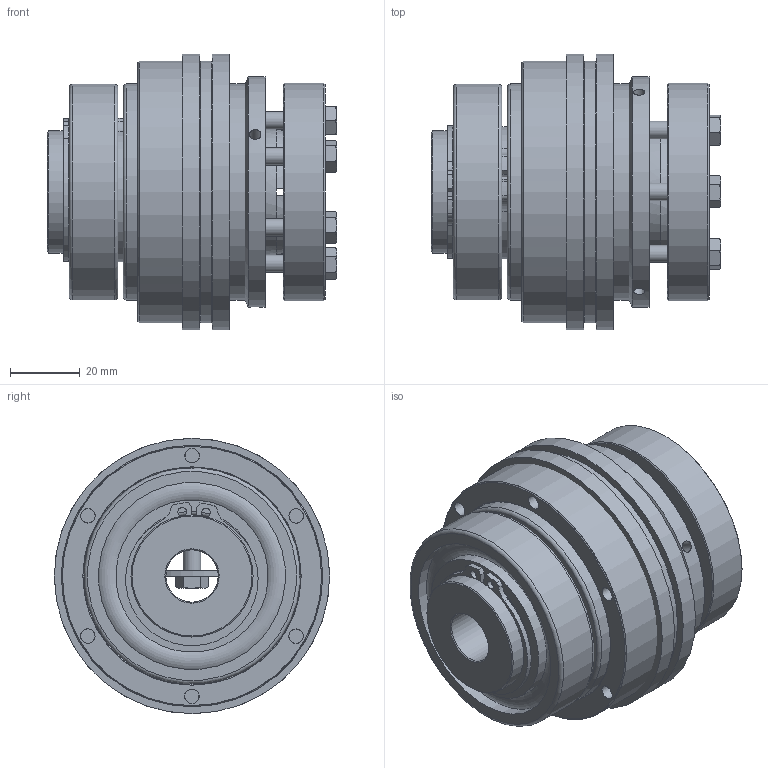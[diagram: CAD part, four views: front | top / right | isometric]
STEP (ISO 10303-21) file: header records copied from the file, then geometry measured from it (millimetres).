
FILE_DESCRIPTION( ( 'Unknown' ), '1' );
FILE_NAME( 'C:/Dokumente und Einstellungen/Sven/Desktop/hp kbk/KBK LL-A-60.stp', 'Unknown', ( 'Unknown' ), ( 'Unknown' ), 'XStep 1.0', 'Unknown', ' ' );
FILE_SCHEMA( ( 'automotive_design' ) );
Length unit declared in the file: millimetre
Products named in the file (12): Assem1; Assem2; ball_bearing_-_6007_0_01; ball_bearing_-_6007_0_02; ball_bearing_-_6007_0_03; Stellring 60; Druckring 60; a_35; Druckring L-A-60; din_en_24017_m5x20; KBK LL-A-60 Grundkörper; Flansch 60
Bounding box: 83 x 79 x 79 mm (x, y, z)
Volume: 440421.2 mm3; surface area: 190677.9 mm2
Topology: 32 solids, 32 shells, 500 faces, 1042 edges, 661 vertices
Faces by surface type: plane 205, cylinder 152, cone 104, torus 39
Full cylindrical faces by diameter (mm): 2.5 x6, 3.242 x6, 4 x6, 4.134 x24, 5 x7, 5.5 x12, 6.88 x7, 15 x2, 33 x4, 35 x10, 35.937 x2, 43.7 x8, 44 x2, 46 x4, 46.5 x2, 53.6 x8, 61.3 x2, 62 x6, 62.5 x2, 66 x2, 75 x4, 79 x2
Entity records: 4767 total; most frequent: CARTESIAN_POINT 1057, DIRECTION 784, ORIENTED_EDGE 514, AXIS2_PLACEMENT_3D 364, EDGE_LOOP 308, EDGE_CURVE 257, FACE_OUTER_BOUND 230, VERTEX_POINT 209
